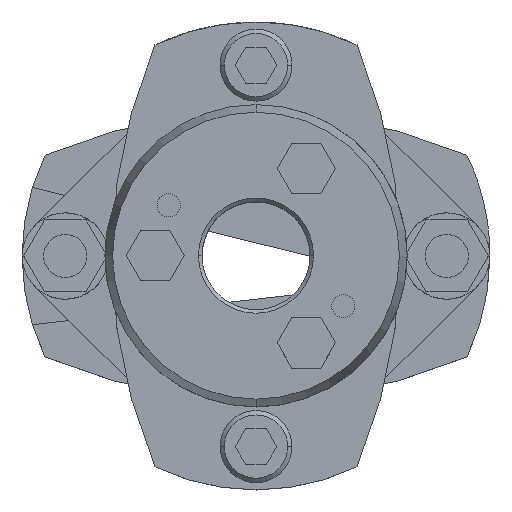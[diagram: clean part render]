
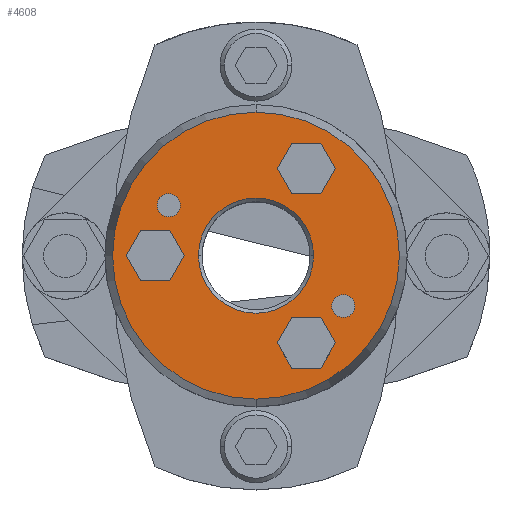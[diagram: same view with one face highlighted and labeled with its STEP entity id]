
A CAD part, top view. The second image highlights one B-rep face of the part: STEP entity #4608.
In plain terms, the highlighted planar face has unit normal (0, 0, 1).
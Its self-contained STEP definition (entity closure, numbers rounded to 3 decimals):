
#1004=CARTESIAN_POINT('',(0.,-19.928,30.75));
#1005=VERTEX_POINT('',#1004);
#1012=CARTESIAN_POINT('',(0.0,19.928,30.75));
#1013=VERTEX_POINT('',#1012);
#1014=CARTESIAN_POINT('',(0.0,0.,30.75));
#1015=DIRECTION('',(0.0,0.0,-1.0));
#1016=DIRECTION('',(0.0,-1.0,0.0));
#1017=AXIS2_PLACEMENT_3D('',#1014,#1015,#1016);
#1018=CIRCLE('',#1017,19.928);
#1019=EDGE_CURVE('',#1005,#1013,#1018,.T.);
#1114=CARTESIAN_POINT('',(-8.,0.,30.75));
#1115=VERTEX_POINT('',#1114);
#1131=CARTESIAN_POINT('',(8.,0.,30.75));
#1132=VERTEX_POINT('',#1131);
#1139=CARTESIAN_POINT('',(0.,0.,30.75));
#1140=DIRECTION('',(0.0,0.0,1.0));
#1141=DIRECTION('',(-1.0,0.0,0.0));
#1142=AXIS2_PLACEMENT_3D('',#1139,#1140,#1141);
#1143=CIRCLE('',#1142,8.0);
#1144=EDGE_CURVE('',#1132,#1115,#1143,.T.);
#1262=CARTESIAN_POINT('',(-13.724,7.,30.75));
#1263=VERTEX_POINT('',#1262);
#1279=CARTESIAN_POINT('',(-10.524,7.,30.75));
#1280=VERTEX_POINT('',#1279);
#1287=CARTESIAN_POINT('',(-12.124,7.,30.75));
#1288=DIRECTION('',(0.0,0.0,-1.0));
#1289=DIRECTION('',(-1.0,0.0,0.0));
#1290=AXIS2_PLACEMENT_3D('',#1287,#1288,#1289);
#1291=CIRCLE('',#1290,1.6);
#1292=EDGE_CURVE('',#1263,#1280,#1291,.T.);
#1304=CARTESIAN_POINT('',(10.524,-7.,30.75));
#1305=VERTEX_POINT('',#1304);
#1321=CARTESIAN_POINT('',(13.724,-7.,30.75));
#1322=VERTEX_POINT('',#1321);
#1329=CARTESIAN_POINT('',(12.124,-7.,30.75));
#1330=DIRECTION('',(0.0,0.0,-1.0));
#1331=DIRECTION('',(-1.0,0.0,0.0));
#1332=AXIS2_PLACEMENT_3D('',#1329,#1330,#1331);
#1333=CIRCLE('',#1332,1.6);
#1334=EDGE_CURVE('',#1305,#1322,#1333,.T.);
#3811=CARTESIAN_POINT('',(12.124,-7.,30.75));
#3812=DIRECTION('',(0.0,0.0,-1.0));
#3813=DIRECTION('',(-1.0,0.0,0.0));
#3814=AXIS2_PLACEMENT_3D('',#3811,#3812,#3813);
#3815=CIRCLE('',#3814,1.6);
#3816=EDGE_CURVE('',#1322,#1305,#3815,.T.);
#3845=CARTESIAN_POINT('',(-12.124,7.,30.75));
#3846=DIRECTION('',(0.0,0.0,-1.0));
#3847=DIRECTION('',(-1.0,0.0,0.0));
#3848=AXIS2_PLACEMENT_3D('',#3845,#3846,#3847);
#3849=CIRCLE('',#3848,1.6);
#3850=EDGE_CURVE('',#1280,#1263,#3849,.T.);
#3888=CARTESIAN_POINT('',(-18.041,0.,30.75));
#3889=VERTEX_POINT('',#3888);
#3896=CARTESIAN_POINT('',(-16.021,-3.5,30.75));
#3897=VERTEX_POINT('',#3896);
#3898=CARTESIAN_POINT('',(-16.021,-3.5,30.75));
#3899=DIRECTION('',(-0.5,0.866,0.0));
#3900=VECTOR('',#3899,4.041);
#3901=LINE('',#3898,#3900);
#3902=EDGE_CURVE('',#3897,#3889,#3901,.T.);
#3926=CARTESIAN_POINT('',(-16.021,3.5,30.75));
#3927=VERTEX_POINT('',#3926);
#3934=CARTESIAN_POINT('',(-18.041,0.,30.75));
#3935=DIRECTION('',(0.5,0.866,0.0));
#3936=VECTOR('',#3935,4.041);
#3937=LINE('',#3934,#3936);
#3938=EDGE_CURVE('',#3889,#3927,#3937,.T.);
#3957=CARTESIAN_POINT('',(-11.979,3.5,30.75));
#3958=VERTEX_POINT('',#3957);
#3965=CARTESIAN_POINT('',(-16.021,3.5,30.75));
#3966=DIRECTION('',(1.0,0.0,0.0));
#3967=VECTOR('',#3966,4.041);
#3968=LINE('',#3965,#3967);
#3969=EDGE_CURVE('',#3927,#3958,#3968,.T.);
#3988=CARTESIAN_POINT('',(-9.959,0.,30.75));
#3989=VERTEX_POINT('',#3988);
#3996=CARTESIAN_POINT('',(-11.979,3.5,30.75));
#3997=DIRECTION('',(0.5,-0.866,0.0));
#3998=VECTOR('',#3997,4.041);
#3999=LINE('',#3996,#3998);
#4000=EDGE_CURVE('',#3958,#3989,#3999,.T.);
#4019=CARTESIAN_POINT('',(-11.979,-3.5,30.75));
#4020=VERTEX_POINT('',#4019);
#4027=CARTESIAN_POINT('',(-9.959,0.,30.75));
#4028=DIRECTION('',(-0.5,-0.866,0.0));
#4029=VECTOR('',#4028,4.041);
#4030=LINE('',#4027,#4029);
#4031=EDGE_CURVE('',#3989,#4020,#4030,.T.);
#4049=CARTESIAN_POINT('',(-11.979,-3.5,30.75));
#4050=DIRECTION('',(-1.0,0.0,0.0));
#4051=VECTOR('',#4050,4.041);
#4052=LINE('',#4049,#4051);
#4053=EDGE_CURVE('',#4020,#3897,#4052,.T.);
#4088=CARTESIAN_POINT('',(2.959,-12.124,30.75));
#4089=VERTEX_POINT('',#4088);
#4096=CARTESIAN_POINT('',(4.979,-15.624,30.75));
#4097=VERTEX_POINT('',#4096);
#4098=CARTESIAN_POINT('',(4.979,-15.624,30.75));
#4099=DIRECTION('',(-0.5,0.866,0.0));
#4100=VECTOR('',#4099,4.041);
#4101=LINE('',#4098,#4100);
#4102=EDGE_CURVE('',#4097,#4089,#4101,.T.);
#4126=CARTESIAN_POINT('',(4.979,-8.624,30.75));
#4127=VERTEX_POINT('',#4126);
#4134=CARTESIAN_POINT('',(2.959,-12.124,30.75));
#4135=DIRECTION('',(0.5,0.866,0.0));
#4136=VECTOR('',#4135,4.041);
#4137=LINE('',#4134,#4136);
#4138=EDGE_CURVE('',#4089,#4127,#4137,.T.);
#4157=CARTESIAN_POINT('',(9.021,-8.624,30.75));
#4158=VERTEX_POINT('',#4157);
#4165=CARTESIAN_POINT('',(4.979,-8.624,30.75));
#4166=DIRECTION('',(1.0,0.0,0.0));
#4167=VECTOR('',#4166,4.041);
#4168=LINE('',#4165,#4167);
#4169=EDGE_CURVE('',#4127,#4158,#4168,.T.);
#4188=CARTESIAN_POINT('',(11.041,-12.124,30.75));
#4189=VERTEX_POINT('',#4188);
#4196=CARTESIAN_POINT('',(9.021,-8.624,30.75));
#4197=DIRECTION('',(0.5,-0.866,0.0));
#4198=VECTOR('',#4197,4.041);
#4199=LINE('',#4196,#4198);
#4200=EDGE_CURVE('',#4158,#4189,#4199,.T.);
#4219=CARTESIAN_POINT('',(9.021,-15.624,30.75));
#4220=VERTEX_POINT('',#4219);
#4227=CARTESIAN_POINT('',(11.041,-12.124,30.75));
#4228=DIRECTION('',(-0.5,-0.866,0.0));
#4229=VECTOR('',#4228,4.041);
#4230=LINE('',#4227,#4229);
#4231=EDGE_CURVE('',#4189,#4220,#4230,.T.);
#4249=CARTESIAN_POINT('',(9.021,-15.624,30.75));
#4250=DIRECTION('',(-1.0,0.0,0.0));
#4251=VECTOR('',#4250,4.041);
#4252=LINE('',#4249,#4251);
#4253=EDGE_CURVE('',#4220,#4097,#4252,.T.);
#4288=CARTESIAN_POINT('',(2.959,12.124,30.75));
#4289=VERTEX_POINT('',#4288);
#4296=CARTESIAN_POINT('',(4.979,8.624,30.75));
#4297=VERTEX_POINT('',#4296);
#4298=CARTESIAN_POINT('',(4.979,8.624,30.75));
#4299=DIRECTION('',(-0.5,0.866,0.0));
#4300=VECTOR('',#4299,4.041);
#4301=LINE('',#4298,#4300);
#4302=EDGE_CURVE('',#4297,#4289,#4301,.T.);
#4326=CARTESIAN_POINT('',(4.979,15.624,30.75));
#4327=VERTEX_POINT('',#4326);
#4334=CARTESIAN_POINT('',(2.959,12.124,30.75));
#4335=DIRECTION('',(0.5,0.866,0.0));
#4336=VECTOR('',#4335,4.041);
#4337=LINE('',#4334,#4336);
#4338=EDGE_CURVE('',#4289,#4327,#4337,.T.);
#4357=CARTESIAN_POINT('',(9.021,15.624,30.75));
#4358=VERTEX_POINT('',#4357);
#4365=CARTESIAN_POINT('',(4.979,15.624,30.75));
#4366=DIRECTION('',(1.0,0.0,0.0));
#4367=VECTOR('',#4366,4.041);
#4368=LINE('',#4365,#4367);
#4369=EDGE_CURVE('',#4327,#4358,#4368,.T.);
#4388=CARTESIAN_POINT('',(11.041,12.124,30.75));
#4389=VERTEX_POINT('',#4388);
#4396=CARTESIAN_POINT('',(9.021,15.624,30.75));
#4397=DIRECTION('',(0.5,-0.866,0.0));
#4398=VECTOR('',#4397,4.041);
#4399=LINE('',#4396,#4398);
#4400=EDGE_CURVE('',#4358,#4389,#4399,.T.);
#4419=CARTESIAN_POINT('',(9.021,8.624,30.75));
#4420=VERTEX_POINT('',#4419);
#4427=CARTESIAN_POINT('',(11.041,12.124,30.75));
#4428=DIRECTION('',(-0.5,-0.866,0.0));
#4429=VECTOR('',#4428,4.041);
#4430=LINE('',#4427,#4429);
#4431=EDGE_CURVE('',#4389,#4420,#4430,.T.);
#4449=CARTESIAN_POINT('',(9.021,8.624,30.75));
#4450=DIRECTION('',(-1.0,0.0,0.0));
#4451=VECTOR('',#4450,4.041);
#4452=LINE('',#4449,#4451);
#4453=EDGE_CURVE('',#4420,#4297,#4452,.T.);
#4545=CARTESIAN_POINT('',(0.,0.,30.75));
#4546=DIRECTION('',(0.0,0.0,1.0));
#4547=DIRECTION('',(-1.0,0.0,0.0));
#4548=AXIS2_PLACEMENT_3D('',#4545,#4546,#4547);
#4549=CIRCLE('',#4548,8.0);
#4550=EDGE_CURVE('',#1115,#1132,#4549,.T.);
#4557=CARTESIAN_POINT('',(0.,-9.964,30.75));
#4558=DIRECTION('',(0.0,0.0,1.0));
#4559=DIRECTION('',(-1.0,0.0,0.0));
#4560=AXIS2_PLACEMENT_3D('',#4557,#4558,#4559);
#4561=PLANE('',#4560);
#4562=ORIENTED_EDGE('',*,*,#1019,.F.);
#4563=CARTESIAN_POINT('',(0.0,0.,30.75));
#4564=DIRECTION('',(0.0,0.0,-1.0));
#4565=DIRECTION('',(0.0,-1.0,0.0));
#4566=AXIS2_PLACEMENT_3D('',#4563,#4564,#4565);
#4567=CIRCLE('',#4566,19.928);
#4568=EDGE_CURVE('',#1013,#1005,#4567,.T.);
#4569=ORIENTED_EDGE('',*,*,#4568,.F.);
#4570=EDGE_LOOP('',(#4562,#4569));
#4571=FACE_OUTER_BOUND('',#4570,.T.);
#4572=ORIENTED_EDGE('',*,*,#1334,.T.);
#4573=ORIENTED_EDGE('',*,*,#3816,.T.);
#4574=EDGE_LOOP('',(#4572,#4573));
#4575=FACE_BOUND('',#4574,.T.);
#4576=ORIENTED_EDGE('',*,*,#1292,.T.);
#4577=ORIENTED_EDGE('',*,*,#3850,.T.);
#4578=EDGE_LOOP('',(#4576,#4577));
#4579=FACE_BOUND('',#4578,.T.);
#4580=ORIENTED_EDGE('',*,*,#3902,.T.);
#4581=ORIENTED_EDGE('',*,*,#3938,.T.);
#4582=ORIENTED_EDGE('',*,*,#3969,.T.);
#4583=ORIENTED_EDGE('',*,*,#4000,.T.);
#4584=ORIENTED_EDGE('',*,*,#4031,.T.);
#4585=ORIENTED_EDGE('',*,*,#4053,.T.);
#4586=EDGE_LOOP('',(#4580,#4581,#4582,#4583,#4584,#4585));
#4587=FACE_BOUND('',#4586,.T.);
#4588=ORIENTED_EDGE('',*,*,#4102,.T.);
#4589=ORIENTED_EDGE('',*,*,#4138,.T.);
#4590=ORIENTED_EDGE('',*,*,#4169,.T.);
#4591=ORIENTED_EDGE('',*,*,#4200,.T.);
#4592=ORIENTED_EDGE('',*,*,#4231,.T.);
#4593=ORIENTED_EDGE('',*,*,#4253,.T.);
#4594=EDGE_LOOP('',(#4588,#4589,#4590,#4591,#4592,#4593));
#4595=FACE_BOUND('',#4594,.T.);
#4596=ORIENTED_EDGE('',*,*,#4302,.T.);
#4597=ORIENTED_EDGE('',*,*,#4338,.T.);
#4598=ORIENTED_EDGE('',*,*,#4369,.T.);
#4599=ORIENTED_EDGE('',*,*,#4400,.T.);
#4600=ORIENTED_EDGE('',*,*,#4431,.T.);
#4601=ORIENTED_EDGE('',*,*,#4453,.T.);
#4602=EDGE_LOOP('',(#4596,#4597,#4598,#4599,#4600,#4601));
#4603=FACE_BOUND('',#4602,.T.);
#4604=ORIENTED_EDGE('',*,*,#1144,.F.);
#4605=ORIENTED_EDGE('',*,*,#4550,.F.);
#4606=EDGE_LOOP('',(#4604,#4605));
#4607=FACE_BOUND('',#4606,.T.);
#4608=ADVANCED_FACE('',(#4571,#4575,#4579,#4587,#4595,#4603,#4607),#4561,.T.);
